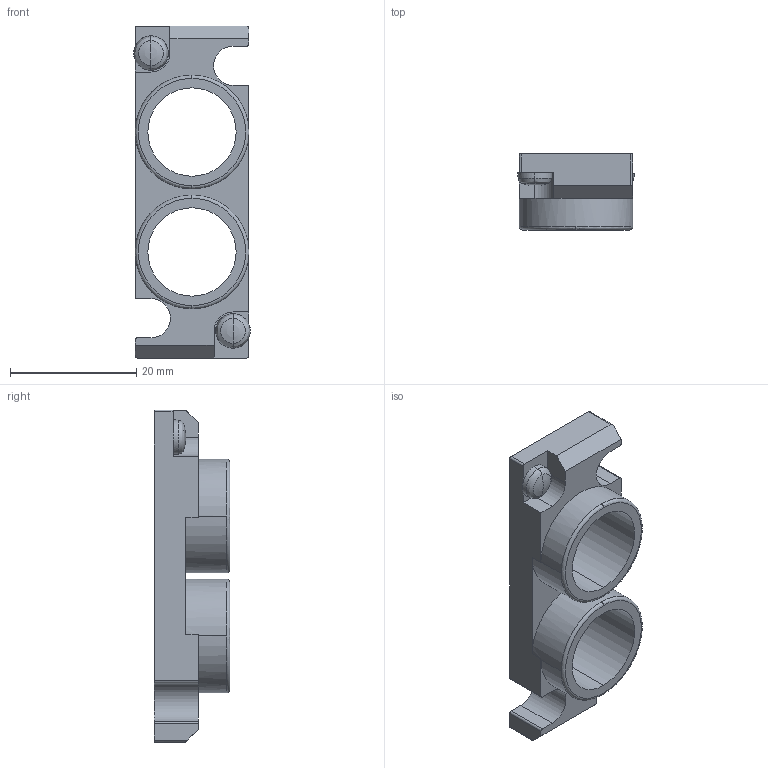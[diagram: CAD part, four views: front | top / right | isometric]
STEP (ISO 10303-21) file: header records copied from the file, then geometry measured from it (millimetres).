
FILE_DESCRIPTION( (''), '2;1');
FILE_NAME ('CVICAD02.3396.F15_Port-PM_21488.stp','2021-07-12T19:12:45',(''),(''),'spGate 12.6.6','','');
FILE_SCHEMA (('AUTOMOTIVE_DESIGN'));
Length unit declared in the file: millimetre
Bounding box: 18.48 x 12 x 52.6 mm (x, y, z)
Volume: 4588.3 mm3; surface area: 3887.5 mm2
Topology: 1 solids, 1 shells, 62 faces, 176 edges, 112 vertices
Faces by surface type: plane 26, cylinder 20, bspline 12, sphere 4
Entity records: 3519 total; most frequent: CARTESIAN_POINT 641, ORIENTED_EDGE 344, DIRECTION 301, COLOUR_RGB 235, PRESENTATION_STYLE_ASSIGNMENT 235, STYLED_ITEM 235, EDGE_CURVE 172, DRAUGHTING_PRE_DEFINED_CURVE_FONT 172
